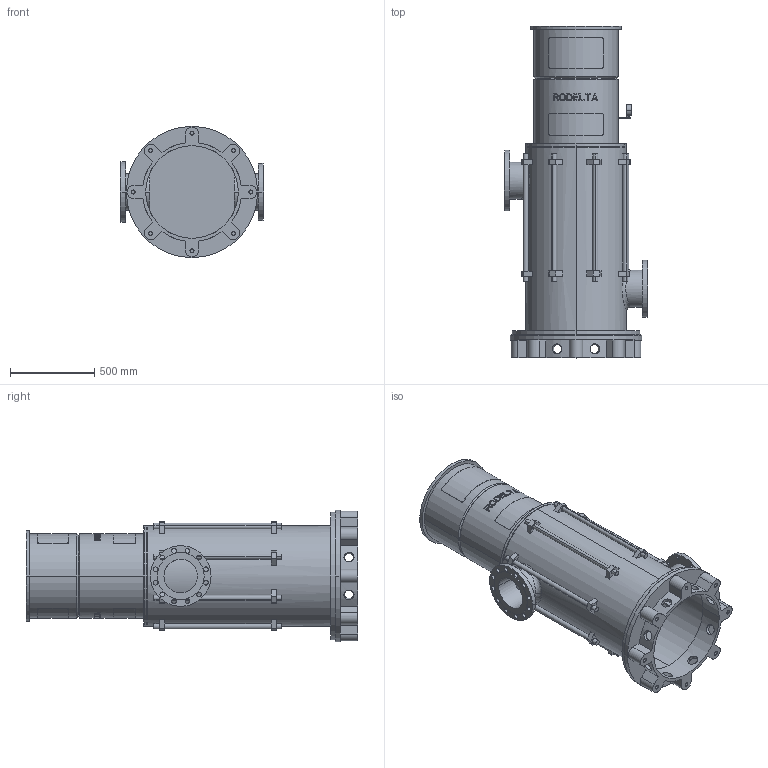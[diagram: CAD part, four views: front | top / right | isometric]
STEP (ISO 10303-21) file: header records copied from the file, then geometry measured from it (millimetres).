
FILE_DESCRIPTION((''),'2;1');
FILE_NAME('LS8_2TR_0GR_PN25','2025-10-24T13:18:38',('Lyritlocal'),(''),'CREO PARAMETRIC BY PTC INC, 2022014','CREO PARAMETRIC BY PTC INC, 2022014','');
FILE_SCHEMA(('CONFIG_CONTROL_DESIGN'));
Length unit declared in the file: millimetre
Products named in the file (1): LS8_2TR_0GR_PN25
Bounding box: 850 x 1972 x 780 mm (x, y, z)
Volume: 71197568 mm3; surface area: 9782472.9 mm2
Topology: 3 solids, 11 shells, 723 faces, 1878 edges, 1246 vertices
Faces by surface type: plane 440, cylinder 267, cone 12, bspline 4
Entity records: 23697 total; most frequent: CARTESIAN_POINT 6016, ORIENTED_EDGE 3724, DIRECTION 3488, EDGE_CURVE 1878, AXIS2_PLACEMENT_3D 1302, VERTEX_POINT 1246, EDGE_LOOP 888, VECTOR 884
